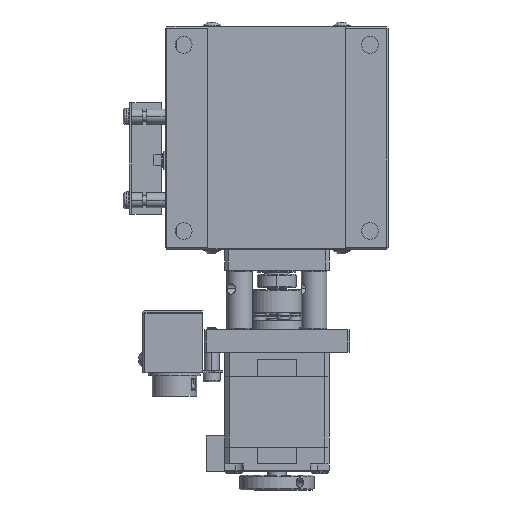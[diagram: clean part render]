
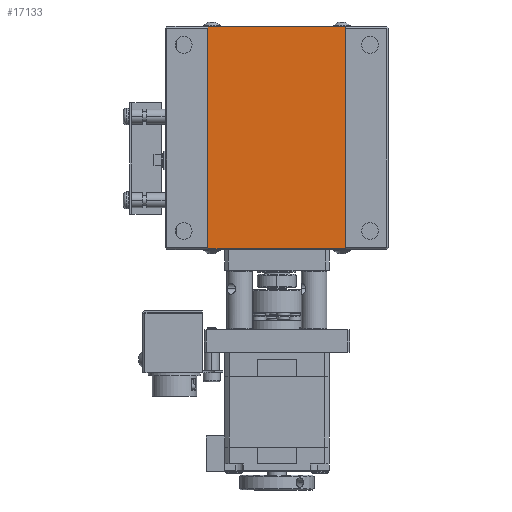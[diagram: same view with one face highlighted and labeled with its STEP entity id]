
A CAD part, front view. The second image highlights one B-rep face of the part: STEP entity #17133.
In plain terms, the highlighted planar face has unit normal (0, -1, 0).
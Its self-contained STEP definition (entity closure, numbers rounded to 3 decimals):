
#696 = EDGE_CURVE ( 'NONE', #5947, #2270, #34006, .T. ) ;
#1357 = EDGE_CURVE ( 'NONE', #7594, #14224, #3411, .T. ) ;
#2270 = VERTEX_POINT ( 'NONE', #60689 ) ;
#3411 = LINE ( 'NONE', #59918, #30194 ) ;
#4100 = DIRECTION ( 'NONE',  ( 0., 0., 1. ) ) ;
#5595 = ORIENTED_EDGE ( 'NONE', *, *, #696, .T. ) ;
#5947 = VERTEX_POINT ( 'NONE', #36939 ) ;
#7594 = VERTEX_POINT ( 'NONE', #50353 ) ;
#14224 = VERTEX_POINT ( 'NONE', #23089 ) ;
#15718 = ORIENTED_EDGE ( 'NONE', *, *, #1357, .T. ) ;
#17133 = ADVANCED_FACE ( 'NONE', ( #34658 ), #49122, .T. ) ;
#17912 = EDGE_LOOP ( 'NONE', ( #5595, #57247, #15718, #46345 ) ) ;
#18199 = AXIS2_PLACEMENT_3D ( 'NONE', #44485, #30365, #53124 ) ;
#23089 = CARTESIAN_POINT ( 'NONE',  ( 3.984, -14.526, 37.978 ) ) ;
#23714 = VECTOR ( 'NONE', #59168, 1000. ) ;
#27616 = EDGE_CURVE ( 'NONE', #2270, #7594, #45665, .T. ) ;
#28647 = LINE ( 'NONE', #46498, #35274 ) ;
#30143 = VECTOR ( 'NONE', #57640, 1000. ) ;
#30194 = VECTOR ( 'NONE', #31048, 1000. ) ;
#30365 = DIRECTION ( 'NONE',  ( 0., -1., 0. ) ) ;
#31048 = DIRECTION ( 'NONE',  ( 1., 0., 0. ) ) ;
#31535 = CARTESIAN_POINT ( 'NONE',  ( -33.016, -14.526, 37.778 ) ) ;
#34006 = LINE ( 'NONE', #43540, #30143 ) ;
#34658 = FACE_OUTER_BOUND ( 'NONE', #17912, .T. ) ;
#35274 = VECTOR ( 'NONE', #4100, 1000. ) ;
#36939 = CARTESIAN_POINT ( 'NONE',  ( 3.984, -14.526, 97.578 ) ) ;
#38662 = EDGE_CURVE ( 'NONE', #14224, #5947, #28647, .T. ) ;
#43540 = CARTESIAN_POINT ( 'NONE',  ( -44.516, -14.526, 97.578 ) ) ;
#44485 = CARTESIAN_POINT ( 'NONE',  ( -44.516, -14.526, 37.778 ) ) ;
#45665 = LINE ( 'NONE', #31535, #23714 ) ;
#46345 = ORIENTED_EDGE ( 'NONE', *, *, #38662, .T. ) ;
#46498 = CARTESIAN_POINT ( 'NONE',  ( 3.984, -14.526, 37.778 ) ) ;
#49122 = PLANE ( 'NONE',  #18199 ) ;
#50353 = CARTESIAN_POINT ( 'NONE',  ( -33.016, -14.526, 37.978 ) ) ;
#53124 = DIRECTION ( 'NONE',  ( -1., 0., 0. ) ) ;
#57247 = ORIENTED_EDGE ( 'NONE', *, *, #27616, .T. ) ;
#57640 = DIRECTION ( 'NONE',  ( -1., 0., 0. ) ) ;
#59168 = DIRECTION ( 'NONE',  ( 0., 0., -1. ) ) ;
#59918 = CARTESIAN_POINT ( 'NONE',  ( -44.516, -14.526, 37.978 ) ) ;
#60689 = CARTESIAN_POINT ( 'NONE',  ( -33.016, -14.526, 97.578 ) ) ;
